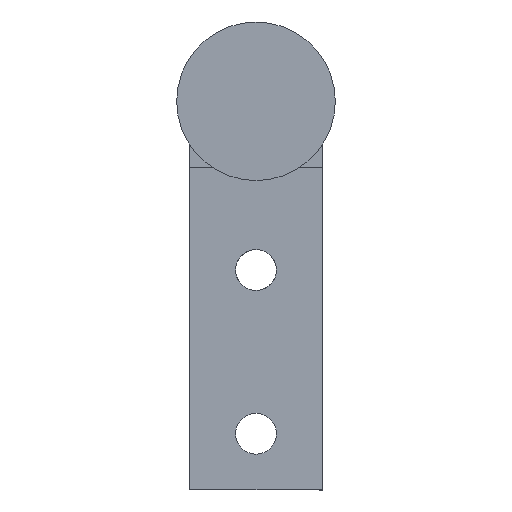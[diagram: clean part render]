
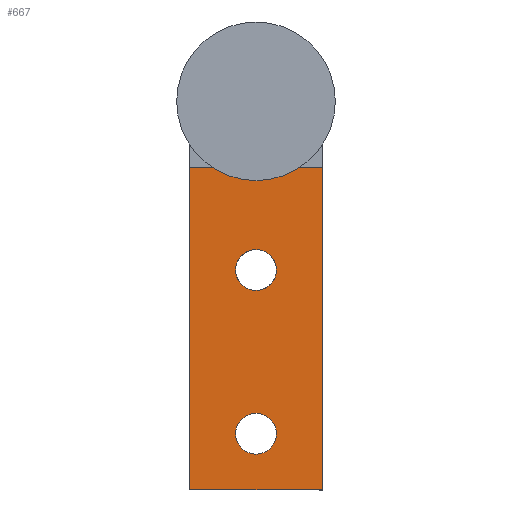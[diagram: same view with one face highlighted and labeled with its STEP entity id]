
A CAD part, front view. The second image highlights one B-rep face of the part: STEP entity #667.
In plain terms, the highlighted planar face has unit normal (0, -1, 0).
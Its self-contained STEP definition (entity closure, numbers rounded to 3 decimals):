
#3 = LINE ( 'NONE', #351, #48 ) ;
#5 = VECTOR ( 'NONE', #428, 1000. ) ;
#11 = VECTOR ( 'NONE', #372, 1000. ) ;
#19 = LINE ( 'NONE', #379, #11 ) ;
#22 = CIRCLE ( 'NONE', #584, 2. ) ;
#31 = CIRCLE ( 'NONE', #640, 2. ) ;
#44 = VECTOR ( 'NONE', #378, 1000. ) ;
#45 = CIRCLE ( 'NONE', #632, 2. ) ;
#48 = VECTOR ( 'NONE', #299, 1000. ) ;
#53 = LINE ( 'NONE', #405, #5 ) ;
#57 = LINE ( 'NONE', #367, #44 ) ;
#67 = CIRCLE ( 'NONE', #544, 2. ) ;
#70 = VERTEX_POINT ( 'NONE', #110 ) ;
#75 = VERTEX_POINT ( 'NONE', #384 ) ;
#78 = VERTEX_POINT ( 'NONE', #276 ) ;
#79 = VERTEX_POINT ( 'NONE', #391 ) ;
#82 = VERTEX_POINT ( 'NONE', #285 ) ;
#87 = VERTEX_POINT ( 'NONE', #355 ) ;
#89 = VERTEX_POINT ( 'NONE', #381 ) ;
#105 = VERTEX_POINT ( 'NONE', #533 ) ;
#110 = CARTESIAN_POINT ( 'NONE',  ( 6.5, 439.8, -6.5 ) ) ;
#239 = FACE_OUTER_BOUND ( 'NONE', #746, .T. ) ;
#247 = FACE_BOUND ( 'NONE', #745, .T. ) ;
#248 = FACE_BOUND ( 'NONE', #715, .T. ) ;
#276 = CARTESIAN_POINT ( 'NONE',  ( -6.5, 439.8, -38. ) ) ;
#285 = CARTESIAN_POINT ( 'NONE',  ( -2., 439.8, -16.5 ) ) ;
#299 = DIRECTION ( 'NONE',  ( 0., 0., 1. ) ) ;
#349 = CARTESIAN_POINT ( 'NONE',  ( 0., 439.8, -32.5 ) ) ;
#351 = CARTESIAN_POINT ( 'NONE',  ( -6.5, 439.8, -38. ) ) ;
#352 = DIRECTION ( 'NONE',  ( 0., -1., 0. ) ) ;
#353 = DIRECTION ( 'NONE',  ( -1., 0., 0. ) ) ;
#355 = CARTESIAN_POINT ( 'NONE',  ( -2., 439.8, -32.5 ) ) ;
#365 = DIRECTION ( 'NONE',  ( 0., -1., 0. ) ) ;
#367 = CARTESIAN_POINT ( 'NONE',  ( 6.5, 439.8, -6.5 ) ) ;
#372 = DIRECTION ( 'NONE',  ( 0., 0., 1. ) ) ;
#375 = DIRECTION ( 'NONE',  ( -1., 0., 0. ) ) ;
#376 = CARTESIAN_POINT ( 'NONE',  ( 0., 439.8, -16.5 ) ) ;
#378 = DIRECTION ( 'NONE',  ( -1., 0., 0. ) ) ;
#379 = CARTESIAN_POINT ( 'NONE',  ( 6.5, 439.8, -38. ) ) ;
#381 = CARTESIAN_POINT ( 'NONE',  ( 2., 439.8, -16.5 ) ) ;
#384 = CARTESIAN_POINT ( 'NONE',  ( 6.5, 439.8, -38. ) ) ;
#391 = CARTESIAN_POINT ( 'NONE',  ( 2., 439.8, -32.5 ) ) ;
#405 = CARTESIAN_POINT ( 'NONE',  ( 6.5, 439.8, -38. ) ) ;
#406 = DIRECTION ( 'NONE',  ( 0., -1., 0. ) ) ;
#407 = DIRECTION ( 'NONE',  ( -1., 0., 0. ) ) ;
#412 = CARTESIAN_POINT ( 'NONE',  ( 0., 439.8, -16.5 ) ) ;
#414 = CARTESIAN_POINT ( 'NONE',  ( 0., 439.8, -32.5 ) ) ;
#422 = DIRECTION ( 'NONE',  ( 0., -1., 0. ) ) ;
#423 = DIRECTION ( 'NONE',  ( -1., 0., 0. ) ) ;
#428 = DIRECTION ( 'NONE',  ( -1., 0., 0. ) ) ;
#432 = CARTESIAN_POINT ( 'NONE',  ( 6.5, 439.8, -38. ) ) ;
#433 = PLANE ( 'NONE',  #570 ) ;
#453 = DIRECTION ( 'NONE',  ( -1., 0., 0. ) ) ;
#454 = DIRECTION ( 'NONE',  ( 0., -1., 0. ) ) ;
#533 = CARTESIAN_POINT ( 'NONE',  ( -6.5, 439.8, -6.5 ) ) ;
#544 = AXIS2_PLACEMENT_3D ( 'NONE', #349, #352, #353 ) ;
#557 = EDGE_CURVE ( 'NONE', #79, #87, #67, .T. ) ;
#564 = EDGE_CURVE ( 'NONE', #78, #105, #3, .T. ) ;
#570 = AXIS2_PLACEMENT_3D ( 'NONE', #432, #454, #453 ) ;
#584 = AXIS2_PLACEMENT_3D ( 'NONE', #376, #406, #407 ) ;
#610 = EDGE_CURVE ( 'NONE', #87, #79, #31, .T. ) ;
#614 = EDGE_CURVE ( 'NONE', #75, #70, #19, .T. ) ;
#626 = EDGE_CURVE ( 'NONE', #82, #89, #22, .T. ) ;
#632 = AXIS2_PLACEMENT_3D ( 'NONE', #412, #422, #423 ) ;
#638 = EDGE_CURVE ( 'NONE', #75, #78, #53, .T. ) ;
#639 = EDGE_CURVE ( 'NONE', #89, #82, #45, .T. ) ;
#640 = AXIS2_PLACEMENT_3D ( 'NONE', #414, #365, #375 ) ;
#646 = EDGE_CURVE ( 'NONE', #70, #105, #57, .T. ) ;
#667 = ADVANCED_FACE ( 'NONE', ( #248, #247, #239 ), #433, .T. ) ;
#715 = EDGE_LOOP ( 'NONE', ( #724, #723 ) ) ;
#722 = ORIENTED_EDGE ( 'NONE', *, *, #610, .F. ) ;
#723 = ORIENTED_EDGE ( 'NONE', *, *, #639, .F. ) ;
#724 = ORIENTED_EDGE ( 'NONE', *, *, #626, .F. ) ;
#725 = ORIENTED_EDGE ( 'NONE', *, *, #564, .F. ) ;
#726 = ORIENTED_EDGE ( 'NONE', *, *, #646, .T. ) ;
#727 = ORIENTED_EDGE ( 'NONE', *, *, #557, .F. ) ;
#729 = ORIENTED_EDGE ( 'NONE', *, *, #614, .T. ) ;
#730 = ORIENTED_EDGE ( 'NONE', *, *, #638, .F. ) ;
#745 = EDGE_LOOP ( 'NONE', ( #722, #727 ) ) ;
#746 = EDGE_LOOP ( 'NONE', ( #726, #725, #730, #729 ) ) ;
